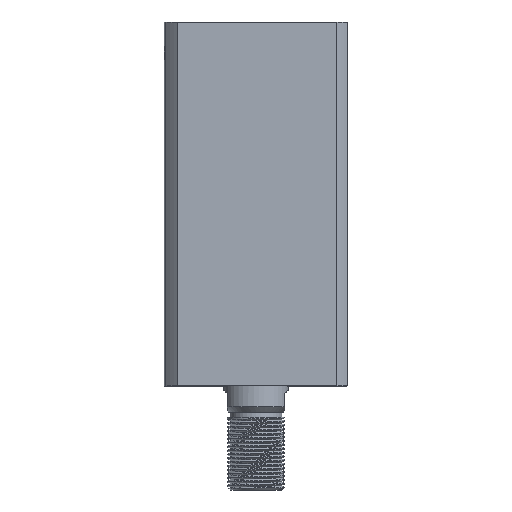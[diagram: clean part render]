
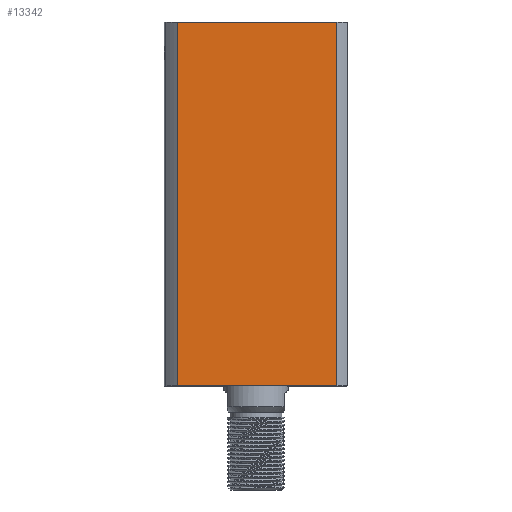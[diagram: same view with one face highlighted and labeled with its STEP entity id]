
A CAD part, front view. The second image highlights one B-rep face of the part: STEP entity #13342.
In plain terms, the highlighted planar face has unit normal (0.012, -1, 0) as drawn and (0, -1, 0) by its records, which use the part's own axes.
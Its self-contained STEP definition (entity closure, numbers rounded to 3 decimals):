
#22 = DIRECTION ( 'NONE',  ( 0., 1., 0. ) ) ;
#98 = CARTESIAN_POINT ( 'NONE',  ( -30.615, -35., 0. ) ) ;
#820 = VERTEX_POINT ( 'NONE', #8314 ) ;
#1653 = FACE_OUTER_BOUND ( 'NONE', #8917, .T. ) ;
#1883 = VERTEX_POINT ( 'NONE', #3950 ) ;
#1984 = CARTESIAN_POINT ( 'NONE',  ( 30.615, -35., 0. ) ) ;
#2428 = VECTOR ( 'NONE', #6803, 1000. ) ;
#3113 = CARTESIAN_POINT ( 'NONE',  ( -35., -35., 140. ) ) ;
#3200 = CARTESIAN_POINT ( 'NONE',  ( -35., -35., 0. ) ) ;
#3950 = CARTESIAN_POINT ( 'NONE',  ( -30.615, -35., 140. ) ) ;
#4158 = PLANE ( 'NONE',  #7868 ) ;
#4241 = DIRECTION ( 'NONE',  ( 1., 0., 0. ) ) ;
#4778 = EDGE_CURVE ( 'NONE', #9873, #7738, #6020, .T. ) ;
#4902 = VECTOR ( 'NONE', #10024, 1000. ) ;
#5816 = CARTESIAN_POINT ( 'NONE',  ( 30.615, -35., 300. ) ) ;
#6020 = LINE ( 'NONE', #3200, #6337 ) ;
#6253 = VECTOR ( 'NONE', #11518, 1000. ) ;
#6337 = VECTOR ( 'NONE', #4241, 1000. ) ;
#6638 = ORIENTED_EDGE ( 'NONE', *, *, #11784, .F. ) ;
#6803 = DIRECTION ( 'NONE',  ( 0., 0., -1. ) ) ;
#6844 = CARTESIAN_POINT ( 'NONE',  ( -30.615, -35., 300. ) ) ;
#7325 = DIRECTION ( 'NONE',  ( 0., 0., 1. ) ) ;
#7738 = VERTEX_POINT ( 'NONE', #1984 ) ;
#7868 = AXIS2_PLACEMENT_3D ( 'NONE', #10452, #22, #7325 ) ;
#8314 = CARTESIAN_POINT ( 'NONE',  ( 30.615, -35., 140. ) ) ;
#8917 = EDGE_LOOP ( 'NONE', ( #6638, #10168, #9844, #12281 ) ) ;
#9033 = LINE ( 'NONE', #3113, #6253 ) ;
#9844 = ORIENTED_EDGE ( 'NONE', *, *, #11815, .F. ) ;
#9873 = VERTEX_POINT ( 'NONE', #98 ) ;
#10024 = DIRECTION ( 'NONE',  ( 0., 0., 1. ) ) ;
#10168 = ORIENTED_EDGE ( 'NONE', *, *, #13333, .F. ) ;
#10452 = CARTESIAN_POINT ( 'NONE',  ( -35., -35., 140. ) ) ;
#10491 = LINE ( 'NONE', #5816, #2428 ) ;
#10814 = LINE ( 'NONE', #6844, #4902 ) ;
#11518 = DIRECTION ( 'NONE',  ( 1., 0., 0. ) ) ;
#11784 = EDGE_CURVE ( 'NONE', #820, #7738, #10491, .T. ) ;
#11815 = EDGE_CURVE ( 'NONE', #9873, #1883, #10814, .T. ) ;
#12281 = ORIENTED_EDGE ( 'NONE', *, *, #4778, .T. ) ;
#13333 = EDGE_CURVE ( 'NONE', #1883, #820, #9033, .T. ) ;
#13342 = ADVANCED_FACE ( 'NONE', ( #1653 ), #4158, .F. ) ;
